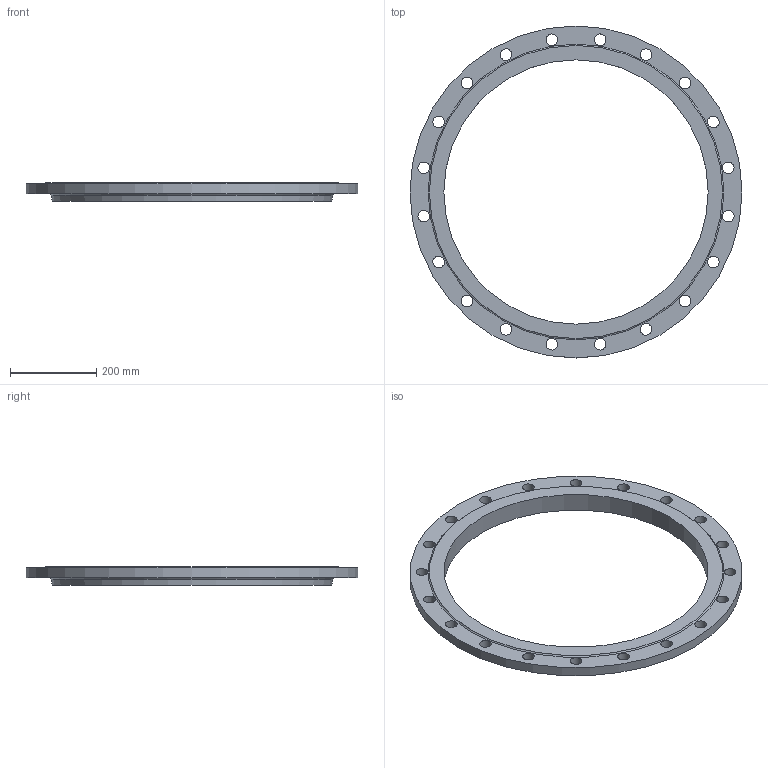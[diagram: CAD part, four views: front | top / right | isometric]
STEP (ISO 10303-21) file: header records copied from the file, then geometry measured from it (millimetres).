
FILE_DESCRIPTION(/* description */ (''),/* implementation_level */ '2;1');
FILE_NAME(/* name */ 'C:\Users\D\Documents\Inventor\HP\JIS\フランジ\JIS 5k soh rf\jis5k-soh-rf-600.stp',/* time_stamp */ '2024-08-29T14:26:04+09:00',/* author */ ('D'),/* organization */ (''),/* preprocessor_version */ 'ST-DEVELOPER v18',/* originating_system */ 'Autodesk Inventor 2020',/* authorisation */ '');
FILE_SCHEMA (('AUTOMOTIVE_DESIGN { 1 0 10303 214 3 1 1 }'));
Length unit declared in the file: millimetre
Products named in the file (1): jis5k-soh-ff-450
Bounding box: 770 x 770 x 44 mm (x, y, z)
Volume: 4553675.4 mm3; surface area: 529449 mm2
Topology: 1 solids, 1 shells, 29 faces, 83 edges, 58 vertices
Faces by surface type: cylinder 22, plane 4, torus 2, cone 1
Full cylindrical faces by diameter (mm): 27 x20, 613 x1, 770 x1
Entity records: 1126 total; most frequent: DIRECTION 203, CARTESIAN_POINT 171, ORIENTED_EDGE 166, AXIS2_PLACEMENT_3D 90, EDGE_CURVE 83, EDGE_LOOP 73, CIRCLE 60, VERTEX_POINT 58
